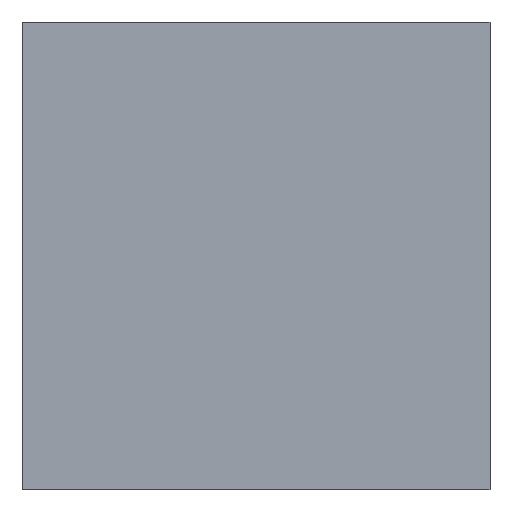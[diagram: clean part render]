
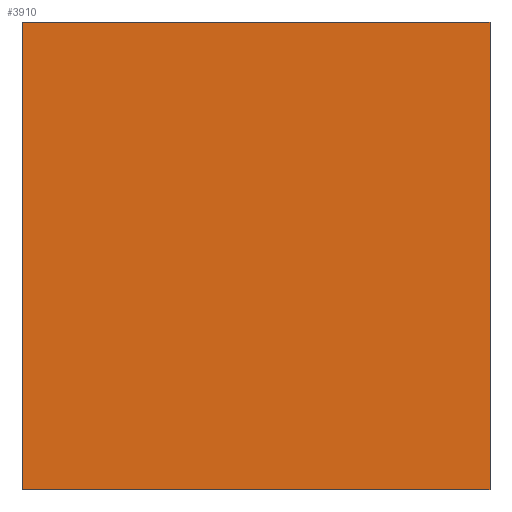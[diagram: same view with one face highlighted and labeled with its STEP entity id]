
A CAD part, left-side view. The second image highlights one B-rep face of the part: STEP entity #3910.
In plain terms, the highlighted planar face has unit normal (-1, 0, 0).
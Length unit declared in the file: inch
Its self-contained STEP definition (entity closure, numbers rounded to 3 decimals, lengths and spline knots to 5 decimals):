
#206 = LINE ( 'NONE', #2251, #4397 ) ;
#603 = ORIENTED_EDGE ( 'NONE', *, *, #1519, .T. ) ;
#991 = FACE_OUTER_BOUND ( 'NONE', #6368, .T. ) ;
#1086 = DIRECTION ( 'NONE',  ( -1., 0., 0. ) ) ;
#1433 = ORIENTED_EDGE ( 'NONE', *, *, #2610, .T. ) ;
#1448 = DIRECTION ( 'NONE',  ( 0., 1., 0. ) ) ;
#1514 = VECTOR ( 'NONE', #1448, 39.37008 ) ;
#1519 = EDGE_CURVE ( 'NONE', #3483, #2039, #4268, .T. ) ;
#2039 = VERTEX_POINT ( 'NONE', #3399 ) ;
#2251 = CARTESIAN_POINT ( 'NONE',  ( -0.85622, 0.505, -1.0748 ) ) ;
#2499 = DIRECTION ( 'NONE',  ( 0., 0., -1. ) ) ;
#2610 = EDGE_CURVE ( 'NONE', #2039, #3224, #4029, .T. ) ;
#2758 = ORIENTED_EDGE ( 'NONE', *, *, #6087, .T. ) ;
#2785 = DIRECTION ( 'NONE',  ( 0., 0., 1. ) ) ;
#2826 = CARTESIAN_POINT ( 'NONE',  ( -0.85622, 0.78748, -1.0748 ) ) ;
#2834 = VECTOR ( 'NONE', #2785, 39.37008 ) ;
#3023 = DIRECTION ( 'NONE',  ( 0., 0., 1. ) ) ;
#3095 = ORIENTED_EDGE ( 'NONE', *, *, #5559, .F. ) ;
#3224 = VERTEX_POINT ( 'NONE', #6226 ) ;
#3399 = CARTESIAN_POINT ( 'NONE',  ( -0.85622, -0.78748, 0.5 ) ) ;
#3483 = VERTEX_POINT ( 'NONE', #3536 ) ;
#3536 = CARTESIAN_POINT ( 'NONE',  ( -0.85622, -0.78748, -1.0748 ) ) ;
#3583 = CARTESIAN_POINT ( 'NONE',  ( -0.85622, 0.505, 0. ) ) ;
#3771 = DIRECTION ( 'NONE',  ( 0., 1., 0. ) ) ;
#3910 = ADVANCED_FACE ( 'NONE', ( #991 ), #4077, .T. ) ;
#3964 = CARTESIAN_POINT ( 'NONE',  ( -0.85622, 0.505, 0.5 ) ) ;
#4029 = LINE ( 'NONE', #3964, #1514 ) ;
#4077 = PLANE ( 'NONE',  #6495 ) ;
#4268 = LINE ( 'NONE', #5269, #2834 ) ;
#4397 = VECTOR ( 'NONE', #3771, 39.37008 ) ;
#4712 = VECTOR ( 'NONE', #2499, 39.37008 ) ;
#5049 = LINE ( 'NONE', #6012, #4712 ) ;
#5146 = VERTEX_POINT ( 'NONE', #2826 ) ;
#5269 = CARTESIAN_POINT ( 'NONE',  ( -0.85622, -0.78748, 0. ) ) ;
#5559 = EDGE_CURVE ( 'NONE', #3483, #5146, #206, .T. ) ;
#6012 = CARTESIAN_POINT ( 'NONE',  ( -0.85622, 0.78748, 0. ) ) ;
#6087 = EDGE_CURVE ( 'NONE', #3224, #5146, #5049, .T. ) ;
#6226 = CARTESIAN_POINT ( 'NONE',  ( -0.85622, 0.78748, 0.5 ) ) ;
#6368 = EDGE_LOOP ( 'NONE', ( #603, #1433, #2758, #3095 ) ) ;
#6495 = AXIS2_PLACEMENT_3D ( 'NONE', #3583, #1086, #3023 ) ;
